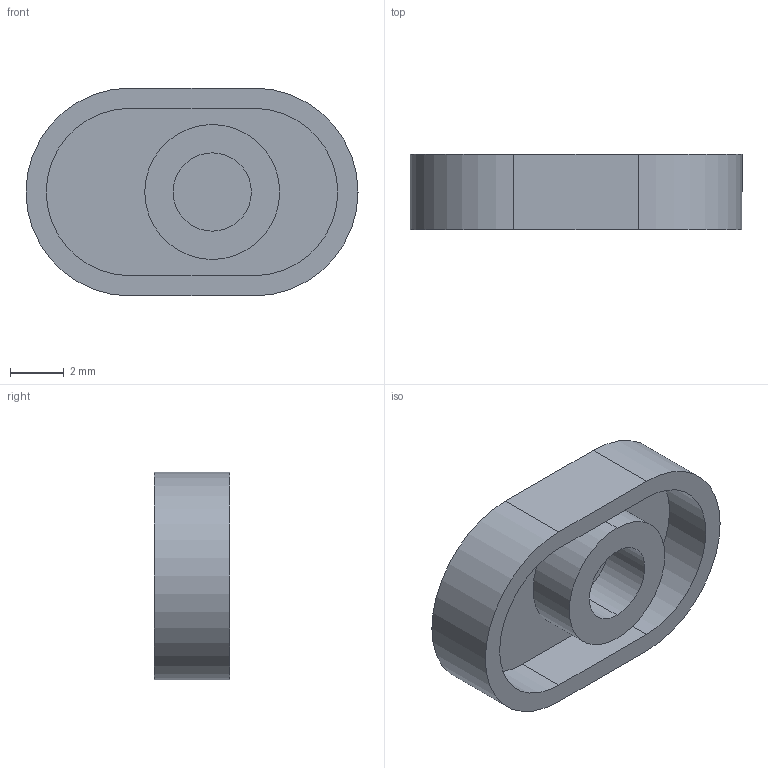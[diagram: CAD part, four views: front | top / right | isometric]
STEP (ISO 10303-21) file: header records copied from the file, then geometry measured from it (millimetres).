
FILE_DESCRIPTION (( 'STEP AP214' ), '1' );
FILE_NAME ('Pulsador vermell PP64E.STEP', '2017-09-14T07:38:57', ( 'aaa' ), ( '' ), 'SwSTEP 2.0', 'SolidWorks 2013', '' );
FILE_SCHEMA (( 'AUTOMOTIVE_DESIGN' ));
Length unit declared in the file: millimetre
Products named in the file (1): Pulsador vermell PP64E
Bounding box: 12.3 x 2.8 x 7.7 mm (x, y, z)
Volume: 142.8 mm3; surface area: 359.1 mm2
Topology: 1 solids, 1 shells, 17 faces, 36 edges, 24 vertices
Faces by surface type: plane 9, cylinder 8
Entity records: 500 total; most frequent: DIRECTION 88, CARTESIAN_POINT 78, ORIENTED_EDGE 72, EDGE_CURVE 36, AXIS2_PLACEMENT_3D 34, VERTEX_POINT 24, LINE 20, VECTOR 20
